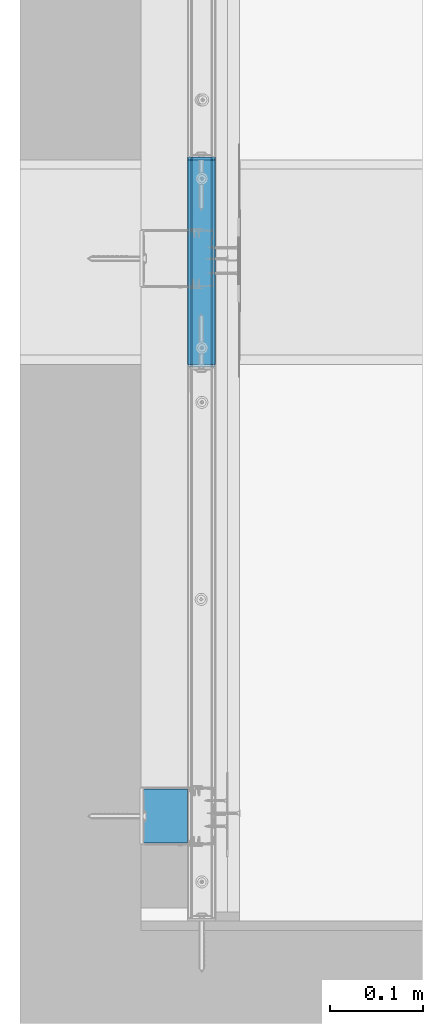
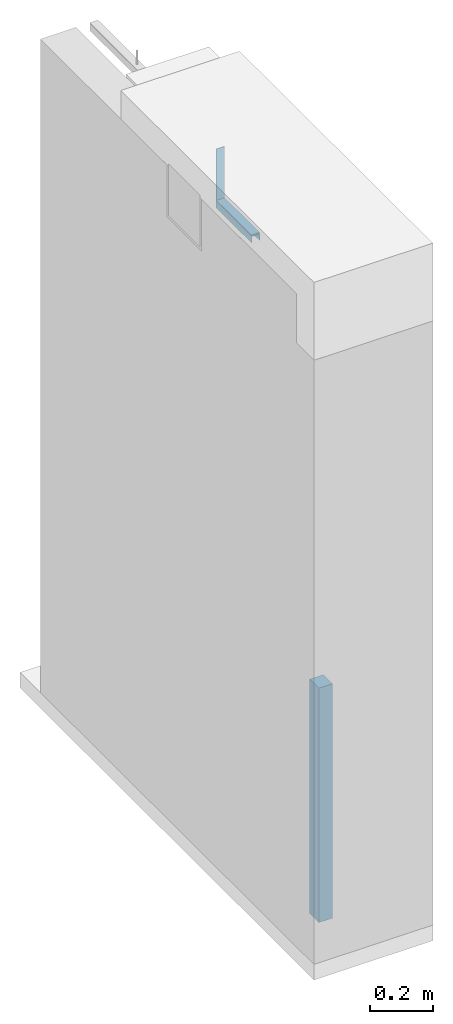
# One storey, part 6 of 67: 4 walls.
"""IFC2X3 building model written with IfcOpenShell, lengths in millimetres."""

from ifc_helpers import new_model, si_unit, frame, origin_with_axes, place, context, subcontext, project, spatial, faceted_brep, material, type_object, element, save


model = new_model("IFC2X3")

# Units and contexts
model_context = context("Model", 3, world=origin_with_axes())
body_context = subcontext(model_context, "Body", "Model", "MODEL_VIEW")
ifc_project = project(units=[si_unit("LENGTHUNIT", "METRE", prefix="MILLI"), si_unit("AREAUNIT", "SQUARE_METRE"), si_unit("VOLUMEUNIT", "CUBIC_METRE")], contexts=[model_context])

# Site, building, storey
site_placement = place(None, frame((2152.14102611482, 674.9749105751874, 57.61556563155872), z_axis=(0.0, 0.0, 1.0), x_axis=(-1.1102230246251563e-16, 1.0, 0.0)))
site = spatial("IfcSite", under=ifc_project, at=site_placement, Name="Default Site", CompositionType="ELEMENT")
building_placement = place(site_placement, origin_with_axes())
building = spatial("IfcBuilding", under=site, at=building_placement, Name="Default Building", CompositionType="ELEMENT")
storey_placement = place(building_placement, origin_with_axes())
storey = spatial("IfcBuildingStorey", under=building, at=storey_placement, Name="Default Building Storey", CompositionType="ELEMENT", Elevation=57.61556563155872)

# Walls
ifc_material_1 = material(Name="Default")
wall_type_1 = type_object("IfcWallType", Name="Wypełnienie z wełny mineralnej szklanej ISOVER#10", PredefinedType="NOTDEFINED")
wall_1_placement = place(storey_placement, frame((2041.0623067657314, 5350.4241464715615, -7.9000002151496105), z_axis=(0.0, 0.0, 1.0), x_axis=(-1.0, 4.718447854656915e-16, 0.0)))
element("IfcWall", 1, at=wall_1_placement, inside=storey, type_object=wall_type_1, material=ifc_material_1, Name="Wypełnienie z wełny mineralnej szklanej ISOVER", context=body_context, shape_type="Brep", body=[
    faceted_brep([(-168.124780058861, 3328.2832634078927, 7.899999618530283), (-168.124780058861, 3328.2832634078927, 911.5436077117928), (-225.97478152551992, 3328.2832634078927, 911.5436077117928), (-225.97478152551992, 3328.2832634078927, 7.899999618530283), (-168.124780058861, 3378.283168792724, 7.899999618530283), (-168.124780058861, 3378.283168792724, 911.5436077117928), (-225.97478152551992, 3378.283168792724, 911.5436077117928), (-225.97478152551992, 3378.283168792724, 7.899999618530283)], [[[0, 1, 2, 3]], [[0, 4, 5, 1]], [[6, 5, 4, 7]], [[7, 4, 0, 3]]]),
    faceted_brep([(-225.97478152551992, 3328.2832634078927, 911.5436077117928), (-225.97478152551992, 3378.283168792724, 911.5436077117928), (-225.97478152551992, 3378.283168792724, 7.899999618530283), (-225.97478152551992, 3328.2832634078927, 7.899999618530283), (-168.124780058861, 3328.2832634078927, 911.5436077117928), (-168.124780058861, 3378.283168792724, 911.5436077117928)], [[[0, 1, 2, 3]], [[1, 0, 4, 5]]]),
])
ifc_material_2 = material(Name="Undefined9")
wall_type_2 = type_object("IfcWallType", Name="Profil RIGIPS UD 30 GypSerra®/Ultrastil®#7", PredefinedType="NOTDEFINED")
wall_2_placement = place(storey_placement, frame((5670.214640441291, 472.86011781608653, 2431.359020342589), z_axis=(6.092619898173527e-14, 6.866451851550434e-13, -1.0), x_axis=(-1.0, -2.0134422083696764e-15, -6.092619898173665e-14)))
element("IfcWall", 2, at=wall_2_placement, inside=storey, type_object=wall_type_2, material=ifc_material_2, Name="Profil RIGIPS UD 30 GypSerra®/Ultrastil®", context=body_context, shape_type="Brep", body=[
    faceted_brep([(2949.1895575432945, 1469.9159860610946, 140.97499847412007), (2949.1895575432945, 1469.3660736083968, 140.97499847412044), (2949.189557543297, 1469.3660736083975, 114.77500200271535), (2949.189557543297, 1469.3758487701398, 114.64985460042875), (2949.189557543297, 1469.4051742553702, 114.5277842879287), (2949.189557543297, 1469.4532155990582, 114.41180855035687), (2949.189557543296, 1469.5187807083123, 114.30477350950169), (2949.189557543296, 1469.6003198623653, 114.20931667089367), (2949.189557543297, 1469.695806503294, 114.12778496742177), (2949.189557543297, 1469.8028564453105, 114.06219750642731), (2949.189557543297, 1469.9188470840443, 114.01415616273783), (2949.189557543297, 1470.0409173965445, 113.98485302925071), (2949.189557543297, 1470.166087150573, 113.97500336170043), (2949.189557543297, 1472.0159769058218, 113.97500336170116), (2949.189557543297, 1472.1635580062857, 113.98871988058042), (2949.189557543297, 1472.306013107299, 114.02940750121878), (2949.189557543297, 1472.4385738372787, 114.09565806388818), (2949.189557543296, 1472.5565910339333, 114.18521404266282), (2949.189557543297, 1472.65601158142, 114.29499834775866), (2949.1895575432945, 1473.6760854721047, 115.65499752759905), (2949.1895575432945, 1473.77550601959, 115.76478183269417), (2949.1895575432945, 1473.8935232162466, 115.85433781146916), (2949.1895575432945, 1474.0260839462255, 115.92059582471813), (2949.1895575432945, 1474.1685390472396, 115.96128344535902), (2949.1895575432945, 1474.3160009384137, 115.97499996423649), (2949.1895575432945, 1493.6159849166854, 115.97499996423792), (2949.1895575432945, 1493.7635660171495, 115.96128344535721), (2949.1895575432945, 1493.906021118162, 115.92059582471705), (2949.1895575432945, 1494.0385818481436, 115.85433781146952), (2949.1895575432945, 1494.1565990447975, 115.76478183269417), (2949.1895575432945, 1494.256019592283, 115.65499752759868), (2949.189557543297, 1495.275974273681, 114.29499834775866), (2949.189557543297, 1495.3755140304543, 114.18521404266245), (2949.189557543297, 1495.4935312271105, 114.09565806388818), (2949.189557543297, 1495.6260919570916, 114.02940750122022), (2949.189557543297, 1495.7685470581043, 113.98871988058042), (2949.189557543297, 1495.916008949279, 113.97500336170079), (2949.189557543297, 1497.7660179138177, 113.97500336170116), (2949.189557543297, 1497.8911876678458, 113.98485302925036), (2949.189557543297, 1498.0132579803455, 114.01415616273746), (2949.189557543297, 1498.1292486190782, 114.06219750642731), (2949.189557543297, 1498.2362985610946, 114.12778496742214), (2949.189557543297, 1498.3316659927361, 114.2093166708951), (2949.189557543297, 1498.4132051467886, 114.30477350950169), (2949.189557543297, 1498.4788894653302, 114.41180855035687), (2949.189557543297, 1498.5269308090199, 114.5277842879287), (2949.189557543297, 1498.5561370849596, 114.64985460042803), (2949.189557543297, 1498.5660314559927, 114.77500200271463), (2949.1895575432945, 1498.5660314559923, 140.97499847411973), (2949.1895575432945, 1498.0159997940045, 140.97499847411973), (2949.189557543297, 1498.0159997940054, 114.77500200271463), (2949.189557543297, 1498.0129003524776, 114.73589390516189), (2949.189557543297, 1498.0038404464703, 114.69774693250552), (2949.189557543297, 1497.9888200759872, 114.66149985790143), (2949.189557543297, 1497.9683160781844, 114.62805420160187), (2949.189557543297, 1497.9428052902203, 114.59822207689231), (2949.189557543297, 1497.913002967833, 114.57274854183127), (2949.189557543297, 1497.8795051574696, 114.55225199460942), (2949.189557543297, 1497.8432655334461, 114.5372390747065), (2949.189557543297, 1497.80511856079, 114.52807486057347), (2949.189557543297, 1497.7660179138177, 114.52499777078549), (2949.189557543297, 1495.916008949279, 114.52499777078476), (2949.189557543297, 1495.869874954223, 114.5292893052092), (2949.189557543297, 1495.82540988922, 114.5419999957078), (2949.189557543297, 1495.7840442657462, 114.56270515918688), (2949.189557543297, 1495.747089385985, 114.5906895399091), (2949.189557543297, 1495.7159757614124, 114.62499946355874), (2949.1895575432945, 1494.6960210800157, 115.98499864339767), (2949.1895575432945, 1494.5281744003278, 116.17025732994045), (2949.1895575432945, 1494.3289756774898, 116.32138490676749), (2949.1895575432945, 1494.105339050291, 116.43319576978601), (2949.1895575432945, 1493.865013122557, 116.50185286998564), (2949.1895575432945, 1493.6159849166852, 116.52500182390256), (2949.1895575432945, 1474.3160009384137, 116.5250018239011), (2949.1895575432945, 1474.0670919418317, 116.50185286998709), (2949.1895575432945, 1473.8266468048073, 116.43319576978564), (2949.1895575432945, 1473.6031293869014, 116.32138490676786), (2949.1895575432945, 1473.4039306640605, 116.17025732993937), (2949.1895575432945, 1473.2360839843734, 115.98499864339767), (2949.189557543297, 1472.2160100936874, 114.62499946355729), (2949.189557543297, 1472.184896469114, 114.59068953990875), (2949.189557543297, 1472.148060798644, 114.56270515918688), (2949.189557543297, 1472.1066951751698, 114.5419999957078), (2949.189557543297, 1472.062110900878, 114.52928930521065), (2949.189557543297, 1472.0159769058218, 114.52499777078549), (2949.189557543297, 1470.166087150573, 114.52499777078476), (2949.189557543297, 1470.1268672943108, 114.52807486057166), (2949.189557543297, 1470.0887203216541, 114.5372390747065), (2949.189557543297, 1470.0524806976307, 114.55225199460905), (2949.189557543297, 1470.0191020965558, 114.57274854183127), (2949.189557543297, 1469.9892997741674, 114.59822207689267), (2949.189557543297, 1469.9637889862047, 114.62805420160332), (2949.189557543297, 1469.9432849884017, 114.66149985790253), (2949.189557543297, 1469.9282646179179, 114.69774693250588), (2949.189557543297, 1469.9190855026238, 114.73589390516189), (2949.189557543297, 1469.9159860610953, 114.77500200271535), (2723.174052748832, 1469.3660736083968, 114.77500200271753), (2723.174052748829, 1469.3660736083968, 140.9749984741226), (2723.174052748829, 1469.9159860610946, 140.9749984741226), (2723.174052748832, 1469.9159860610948, 114.77500200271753), (2723.174052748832, 1469.919085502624, 114.7358939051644), (2723.174052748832, 1469.928264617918, 114.69774693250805), (2723.174052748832, 1469.9432849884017, 114.66149985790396), (2723.174052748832, 1469.9637889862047, 114.62805420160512), (2723.174052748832, 1469.9892997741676, 114.59822207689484), (2723.174052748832, 1470.0191020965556, 114.5727485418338), (2723.174052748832, 1470.05248069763, 114.55225199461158), (2723.174052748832, 1470.0887203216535, 114.53723907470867), (2723.174052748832, 1470.12686729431, 114.5280748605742), (2723.174052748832, 1470.1660871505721, 114.52499777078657), (2723.174052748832, 1472.0159769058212, 114.52499777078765), (2723.174052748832, 1472.0621109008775, 114.52928930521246), (2723.174052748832, 1472.1066951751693, 114.54199999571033), (2723.174052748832, 1472.1480607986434, 114.56270515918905), (2723.174052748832, 1472.184896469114, 114.59068953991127), (2723.174052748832, 1472.2160100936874, 114.62499946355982), (2723.174052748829, 1473.2360839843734, 115.9849986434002), (2723.174052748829, 1473.4039306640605, 116.17025732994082), (2723.1740527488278, 1473.6031293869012, 116.32138490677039), (2723.1740527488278, 1473.8266468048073, 116.43319576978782), (2723.1740527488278, 1474.0670919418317, 116.5018528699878), (2723.1740527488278, 1474.3160009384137, 116.52500182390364), (2723.1740527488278, 1493.6159849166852, 116.52500182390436), (2723.1740527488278, 1493.8650131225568, 116.5018528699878), (2723.1740527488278, 1494.105339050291, 116.43319576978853), (2723.1740527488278, 1494.3289756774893, 116.32138490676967), (2723.174052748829, 1494.5281744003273, 116.17025732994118), (2723.1740527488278, 1494.6960210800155, 115.98499864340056), (2723.174052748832, 1495.7159757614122, 114.62499946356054), (2723.174052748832, 1495.7470893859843, 114.59068953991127), (2723.174052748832, 1495.7840442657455, 114.56270515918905), (2723.174052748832, 1495.8254098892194, 114.54199999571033), (2723.174052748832, 1495.869874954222, 114.52928930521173), (2723.174052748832, 1495.9160089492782, 114.52499777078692), (2723.174052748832, 1497.7660179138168, 114.52499777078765), (2723.174052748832, 1497.8051185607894, 114.5280748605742), (2723.174052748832, 1497.8432655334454, 114.53723907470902), (2723.174052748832, 1497.8795051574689, 114.55225199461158), (2723.174052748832, 1497.9130029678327, 114.5727485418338), (2723.174052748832, 1497.94280529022, 114.59822207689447), (2723.174052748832, 1497.9683160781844, 114.6280542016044), (2723.174052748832, 1497.9888200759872, 114.66149985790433), (2723.174052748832, 1498.0038404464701, 114.69774693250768), (2723.174052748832, 1498.0129003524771, 114.73589390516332), (2723.174052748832, 1498.0159997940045, 114.7750020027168), (2723.1740527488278, 1498.0159997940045, 140.9749984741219), (2723.1740527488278, 1498.566031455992, 140.97499847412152), (2723.174052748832, 1498.566031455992, 114.77500200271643), (2723.174052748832, 1498.5561370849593, 114.64985460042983), (2723.174052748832, 1498.5269308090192, 114.52778428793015), (2723.174052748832, 1498.4788894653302, 114.41180855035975), (2723.174052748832, 1498.413205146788, 114.30477350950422), (2723.174052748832, 1498.3316659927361, 114.20931667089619), (2723.174052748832, 1498.2362985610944, 114.12778496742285), (2723.174052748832, 1498.1292486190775, 114.06219750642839), (2723.1740527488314, 1498.0132579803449, 114.01415616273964), (2723.1740527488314, 1497.8911876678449, 113.98485302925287), (2723.1740527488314, 1497.7660179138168, 113.97500336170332), (2723.1740527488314, 1495.9160089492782, 113.97500336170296), (2723.1740527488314, 1495.7685470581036, 113.9887198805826), (2723.1740527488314, 1495.626091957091, 114.0294075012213), (2723.174052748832, 1495.49353122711, 114.09565806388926), (2723.174052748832, 1495.3755140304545, 114.18521404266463), (2723.174052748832, 1495.27597427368, 114.29499834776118), (2723.1740527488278, 1494.2560195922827, 115.65499752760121), (2723.1740527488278, 1494.1565990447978, 115.7647818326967), (2723.1740527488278, 1494.038581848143, 115.8543378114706), (2723.1740527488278, 1493.9060211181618, 115.92059582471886), (2723.1740527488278, 1493.7635660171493, 115.96128344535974), (2723.1740527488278, 1493.6159849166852, 115.97499996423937), (2723.174052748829, 1474.3160009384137, 115.974999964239), (2723.174052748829, 1474.1685390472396, 115.96128344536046), (2723.174052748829, 1474.0260839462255, 115.92059582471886), (2723.174052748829, 1473.8935232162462, 115.85433781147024), (2723.174052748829, 1473.77550601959, 115.7647818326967), (2723.174052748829, 1473.6760854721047, 115.65499752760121), (2723.174052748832, 1472.6560115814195, 114.29499834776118), (2723.174052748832, 1472.556591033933, 114.18521404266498), (2723.174052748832, 1472.4385738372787, 114.0956580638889), (2723.174052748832, 1472.3060131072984, 114.02940750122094), (2723.1740527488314, 1472.163558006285, 113.9887198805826), (2723.1740527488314, 1472.0159769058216, 113.97500336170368), (2723.1740527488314, 1470.1660871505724, 113.97500336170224), (2723.1740527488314, 1470.0409173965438, 113.98485302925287), (2723.1740527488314, 1469.9188470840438, 114.01415616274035), (2723.174052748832, 1469.8028564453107, 114.06219750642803), (2723.174052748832, 1469.695806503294, 114.12778496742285), (2723.174052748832, 1469.600319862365, 114.20931667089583), (2723.174052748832, 1469.5187807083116, 114.30477350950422), (2723.174052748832, 1469.4532155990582, 114.4118085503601), (2723.174052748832, 1469.4051742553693, 114.52778428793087), (2723.174052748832, 1469.3758487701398, 114.64985460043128)], [[[0, 1, 2, 3, 4, 5, 6, 7, 8, 9, 10, 11, 12, 13, 14, 15, 16, 17, 18, 19, 20, 21, 22, 23, 24, 25, 26, 27, 28, 29, 30, 31, 32, 33, 34, 35, 36, 37, 38, 39, 40, 41, 42, 43, 44, 45, 46, 47, 48, 49, 50, 51, 52, 53, 54, 55, 56, 57, 58, 59, 60, 61, 62, 63, 64, 65, 66, 67, 68, 69, 70, 71, 72, 73, 74, 75, 76, 77, 78, 79, 80, 81, 82, 83, 84, 85, 86, 87, 88, 89, 90, 91, 92, 93, 94, 95]], [[96, 97, 98, 99, 100, 101, 102, 103, 104, 105, 106, 107, 108, 109, 110, 111, 112, 113, 114, 115, 116, 117, 118, 119, 120, 121, 122, 123, 124, 125, 126, 127, 128, 129, 130, 131, 132, 133, 134, 135, 136, 137, 138, 139, 140, 141, 142, 143, 144, 145, 146, 147, 148, 149, 150, 151, 152, 153, 154, 155, 156, 157, 158, 159, 160, 161, 162, 163, 164, 165, 166, 167, 168, 169, 170, 171, 172, 173, 174, 175, 176, 177, 178, 179, 180, 181, 182, 183, 184, 185, 186, 187, 188, 189, 190, 191]], [[23, 171, 170, 24]], [[22, 172, 171, 23]], [[175, 174, 20, 19]], [[172, 22, 21, 173]], [[20, 174, 173, 21]], [[24, 170, 169, 25]], [[29, 165, 164, 30]], [[165, 29, 28, 166]], [[27, 167, 166, 28]], [[169, 168, 26, 25]], [[26, 168, 167, 27]], [[30, 164, 163, 31]], [[35, 159, 158, 36]], [[34, 160, 159, 35]], [[33, 32, 162, 161]], [[161, 160, 34, 33]], [[163, 162, 32, 31]], [[36, 158, 157, 37]], [[46, 45, 149, 148]], [[148, 147, 47, 46]], [[44, 150, 149, 45]], [[43, 42, 152, 151]], [[151, 150, 44, 43]], [[41, 40, 154, 153]], [[153, 152, 42, 41]], [[39, 155, 154, 40]], [[38, 37, 157, 156]], [[156, 155, 39, 38]], [[47, 147, 146, 48]], [[48, 146, 145, 49]], [[49, 145, 144, 50]], [[134, 60, 59, 135]], [[58, 136, 135, 59]], [[57, 137, 136, 58]], [[137, 57, 56, 138]], [[55, 139, 138, 56]], [[139, 55, 54, 140]], [[53, 141, 140, 54]], [[52, 142, 141, 53]], [[142, 52, 51, 143]], [[50, 144, 143, 51]], [[60, 134, 133, 61]], [[65, 129, 128, 66]], [[129, 65, 64, 130]], [[63, 131, 130, 64]], [[133, 132, 62, 61]], [[62, 132, 131, 63]], [[66, 128, 127, 67]], [[71, 123, 122, 72]], [[70, 69, 125, 124]], [[124, 123, 71, 70]], [[68, 126, 125, 69]], [[127, 126, 68, 67]], [[72, 122, 121, 73]], [[77, 117, 116, 78]], [[76, 118, 117, 77]], [[75, 74, 120, 119]], [[119, 118, 76, 75]], [[121, 120, 74, 73]], [[78, 116, 115, 79]], [[83, 111, 110, 84]], [[82, 112, 111, 83]], [[115, 114, 80, 79]], [[112, 82, 81, 113]], [[80, 114, 113, 81]], [[84, 110, 109, 85]], [[99, 95, 94, 100]], [[93, 101, 100, 94]], [[92, 102, 101, 93]], [[102, 92, 91, 103]], [[90, 104, 103, 91]], [[104, 90, 89, 105]], [[88, 106, 105, 89]], [[87, 107, 106, 88]], [[107, 87, 86, 108]], [[85, 109, 108, 86]], [[95, 99, 98, 0]], [[0, 98, 97, 1]], [[1, 97, 96, 2]], [[11, 10, 184, 183]], [[183, 182, 12, 11]], [[9, 185, 184, 10]], [[6, 5, 189, 188]], [[7, 6, 188, 187]], [[8, 7, 187, 186]], [[186, 185, 9, 8]], [[4, 190, 189, 5]], [[3, 2, 96, 191]], [[191, 190, 4, 3]], [[12, 182, 181, 13]], [[17, 177, 176, 18]], [[16, 15, 179, 178]], [[178, 177, 17, 16]], [[14, 180, 179, 15]], [[181, 180, 14, 13]], [[18, 176, 175, 19]]]),
])
ifc_material_3 = material(Name="Undefined13")
wall_type_3 = type_object("IfcWallType", Name="Taśma uszczelniająca piankowa RIGIPS#7", PredefinedType="NOTDEFINED")
wall_3_placement = place(storey_placement, frame((6219.165077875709, 472.8602941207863, 2431.369431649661), z_axis=(6.092619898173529e-14, 6.866451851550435e-13, -1.0), x_axis=(-1.0, -2.0134422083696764e-15, -6.092619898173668e-14)))
element("IfcWall", 3, at=wall_3_placement, inside=storey, type_object=wall_type_3, material=ifc_material_3, Name="Taśma uszczelniająca piankowa RIGIPS", context=body_context, shape_type="Brep", body=[
    faceted_brep([(3275.1244962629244, 1498.9659786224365, 113.97500336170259), (3275.1244962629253, 1498.9659786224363, 110.9749972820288), (3275.1244962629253, 1468.9660072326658, 110.9749972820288), (3275.1244962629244, 1468.9660072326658, 113.97500336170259), (3495.1399888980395, 1498.9659786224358, 110.97499728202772), (3495.1399888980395, 1498.9659786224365, 113.97500336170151), (3495.1399888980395, 1468.966007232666, 113.97500336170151), (3495.1399888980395, 1468.9660072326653, 110.97499728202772)], [[[0, 1, 2, 3]], [[4, 5, 6, 7]], [[5, 0, 3, 6]], [[6, 3, 2, 7]], [[7, 2, 1, 4]], [[4, 1, 0, 5]]]),
])
wall_type_4 = type_object("IfcWallType", Name="Taśma uszczelniająca piankowa RIGIPS#6", PredefinedType="NOTDEFINED")
wall_4_placement = place(storey_placement, frame((2833.065584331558, 472.8602941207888, 5802.553796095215), z_axis=(1.0, 6.860037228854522e-13, 6.156186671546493e-14), x_axis=(6.156186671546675e-14, -2.6462982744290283e-15, -1.0)))
element("IfcWall", 4, at=wall_4_placement, inside=storey, type_object=wall_type_4, material=ifc_material_3, Name="Taśma uszczelniająca piankowa RIGIPS", context=body_context, shape_type="Brep", body=[
    faceted_brep([(3285.12449626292, 1498.9659786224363, 113.97500336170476), (3285.1244962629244, 1498.9659786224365, 110.9749972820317), (3285.1244962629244, 1468.966007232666, 110.9749972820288), (3285.12449626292, 1468.9660072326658, 113.97500336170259), (3485.159367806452, 1498.9659786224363, 110.9749972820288), (3485.159367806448, 1498.9659786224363, 113.97500336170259), (3485.159367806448, 1468.9660072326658, 113.97500336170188), (3485.159367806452, 1468.9660072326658, 110.97499728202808)], [[[0, 1, 2, 3]], [[4, 5, 6, 7]], [[5, 0, 3, 6]], [[6, 3, 2, 7]], [[7, 2, 1, 4]], [[4, 1, 0, 5]]]),
])

save(model, "model.ifc")
